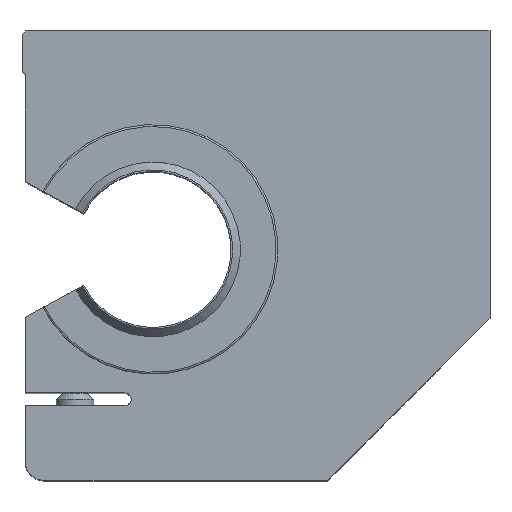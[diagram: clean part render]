
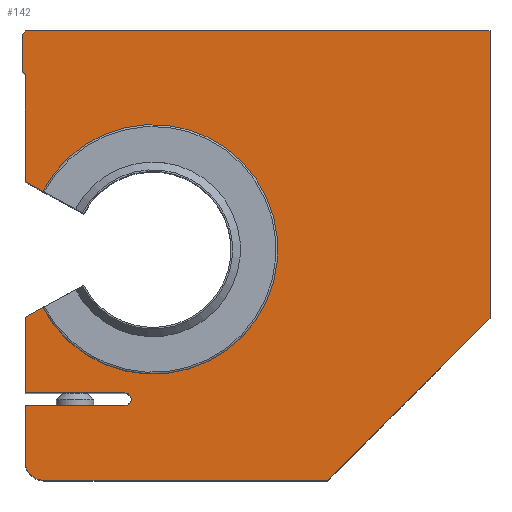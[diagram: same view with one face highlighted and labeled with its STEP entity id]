
A CAD part, top view. The second image highlights one B-rep face of the part: STEP entity #142.
In plain terms, the highlighted planar face has unit normal (0, 0, 1).
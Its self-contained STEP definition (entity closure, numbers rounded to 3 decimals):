
#142=ADVANCED_FACE('',(#316),#317,.F.);
#316=FACE_OUTER_BOUND('',#534,.T.);
#317=PLANE('',#535);
#534=EDGE_LOOP('',(#1160,#1161,#1162,#1163,#1164,#1165,#1166,#1167,#1168,#1169,#1170,#1171,#1172,#1173,#1174,#1175,#1176));
#535=AXIS2_PLACEMENT_3D('',#1177,#1178,#1179);
#1160=ORIENTED_EDGE('',*,*,#1527,.T.);
#1161=ORIENTED_EDGE('',*,*,#1543,.T.);
#1162=ORIENTED_EDGE('',*,*,#1529,.T.);
#1163=ORIENTED_EDGE('',*,*,#1536,.T.);
#1164=ORIENTED_EDGE('',*,*,#1540,.T.);
#1165=ORIENTED_EDGE('',*,*,#1542,.T.);
#1166=ORIENTED_EDGE('',*,*,#1484,.T.);
#1167=ORIENTED_EDGE('',*,*,#1488,.T.);
#1168=ORIENTED_EDGE('',*,*,#1490,.T.);
#1169=ORIENTED_EDGE('',*,*,#1362,.T.);
#1170=ORIENTED_EDGE('',*,*,#1497,.T.);
#1171=ORIENTED_EDGE('',*,*,#1504,.T.);
#1172=ORIENTED_EDGE('',*,*,#1507,.T.);
#1173=ORIENTED_EDGE('',*,*,#1510,.T.);
#1174=ORIENTED_EDGE('',*,*,#1513,.T.);
#1175=ORIENTED_EDGE('',*,*,#1516,.T.);
#1176=ORIENTED_EDGE('',*,*,#1519,.T.);
#1177=CARTESIAN_POINT('',(0.0,0.0,33.5));
#1178=DIRECTION('',(0.0,0.0,-1.0));
#1179=DIRECTION('',(1.0,0.0,0.0));
#1362=EDGE_CURVE('',#1638,#1636,#1639,.T.);
#1484=EDGE_CURVE('',#1843,#1841,#1844,.T.);
#1488=EDGE_CURVE('',#1841,#1848,#1850,.T.);
#1490=EDGE_CURVE('',#1848,#1638,#1852,.T.);
#1497=EDGE_CURVE('',#1636,#1859,#1861,.T.);
#1504=EDGE_CURVE('',#1859,#1868,#1870,.T.);
#1507=EDGE_CURVE('',#1868,#1873,#1875,.T.);
#1510=EDGE_CURVE('',#1873,#1878,#1880,.T.);
#1513=EDGE_CURVE('',#1878,#1883,#1885,.T.);
#1516=EDGE_CURVE('',#1883,#1888,#1890,.T.);
#1519=EDGE_CURVE('',#1888,#1893,#1895,.T.);
#1527=EDGE_CURVE('',#1893,#1908,#1910,.T.);
#1529=EDGE_CURVE('',#1913,#1914,#1915,.T.);
#1536=EDGE_CURVE('',#1914,#1925,#1927,.T.);
#1540=EDGE_CURVE('',#1925,#1932,#1934,.T.);
#1542=EDGE_CURVE('',#1932,#1843,#1936,.T.);
#1543=EDGE_CURVE('',#1908,#1913,#1937,.F.);
#1636=VERTEX_POINT('',#2045);
#1638=VERTEX_POINT('',#2048);
#1639=CIRCLE('',#2049,20.0);
#1841=VERTEX_POINT('',#2399);
#1843=VERTEX_POINT('',#2402);
#1844=LINE('',#2403,#2404);
#1848=VERTEX_POINT('',#2410);
#1850=LINE('',#2413,#2414);
#1852=LINE('',#2421,#2422);
#1859=VERTEX_POINT('',#2434);
#1861=LINE('',#2437,#2438);
#1868=VERTEX_POINT('',#2454);
#1870=LINE('',#2457,#2458);
#1873=VERTEX_POINT('',#2462);
#1875=LINE('',#2465,#2466);
#1878=VERTEX_POINT('',#2469);
#1880=CIRCLE('',#2472,1.0);
#1883=VERTEX_POINT('',#2476);
#1885=LINE('',#2479,#2480);
#1888=VERTEX_POINT('',#2484);
#1890=LINE('',#2487,#2488);
#1893=VERTEX_POINT('',#2491);
#1895=CIRCLE('',#2494,3.0);
#1908=VERTEX_POINT('',#2510);
#1910=LINE('',#2513,#2514);
#1913=VERTEX_POINT('',#2517);
#1914=VERTEX_POINT('',#2518);
#1915=LINE('',#2519,#2520);
#1925=VERTEX_POINT('',#2534);
#1927=LINE('',#2537,#2538);
#1932=VERTEX_POINT('',#2544);
#1934=LINE('',#2547,#2548);
#1936=LINE('',#2551,#2552);
#1937=LINE('',#2553,#2554);
#2045=CARTESIAN_POINT('',(-17.691,-9.329,33.5));
#2048=CARTESIAN_POINT('',(-17.691,9.329,33.5));
#2049=AXIS2_PLACEMENT_3D('',#2634,#2635,#2636);
#2399=CARTESIAN_POINT('',(-20.5,28.0,33.5));
#2402=CARTESIAN_POINT('',(-21.0,28.5,33.5));
#2403=CARTESIAN_POINT('',(-21.0,28.5,33.5));
#2404=VECTOR('',#2814,1.0);
#2410=CARTESIAN_POINT('',(-20.5,10.854,33.5));
#2413=CARTESIAN_POINT('',(-20.5,28.0,33.5));
#2414=VECTOR('',#2818,1.0);
#2421=CARTESIAN_POINT('',(-20.5,10.854,33.5));
#2422=VECTOR('',#2819,1.0);
#2434=CARTESIAN_POINT('',(-20.5,-10.854,33.5));
#2437=CARTESIAN_POINT('',(-17.691,-9.329,33.5));
#2438=VECTOR('',#2826,1.0);
#2454=CARTESIAN_POINT('',(-20.5,-23.,33.5));
#2457=CARTESIAN_POINT('',(-20.5,-10.854,33.5));
#2458=VECTOR('',#2832,1.0);
#2462=CARTESIAN_POINT('',(-4.5,-23.,33.5));
#2465=CARTESIAN_POINT('',(-20.5,-23.,33.5));
#2466=VECTOR('',#2835,1.0);
#2469=CARTESIAN_POINT('',(-4.5,-25.,33.5));
#2472=AXIS2_PLACEMENT_3D('',#2840,#2841,#2842);
#2476=CARTESIAN_POINT('',(-20.5,-25.,33.5));
#2479=CARTESIAN_POINT('',(-4.5,-25.,33.5));
#2480=VECTOR('',#2845,1.0);
#2484=CARTESIAN_POINT('',(-20.5,-34.0,33.5));
#2487=CARTESIAN_POINT('',(-20.5,-25.,33.5));
#2488=VECTOR('',#2848,1.0);
#2491=CARTESIAN_POINT('',(-17.5,-37.0,33.5));
#2494=AXIS2_PLACEMENT_3D('',#2853,#2854,#2855);
#2510=CARTESIAN_POINT('',(28.0,-37.,33.5));
#2513=CARTESIAN_POINT('',(-17.5,-37.0,33.5));
#2514=VECTOR('',#2869,1.0);
#2517=CARTESIAN_POINT('',(54.0,-11.,33.5));
#2518=CARTESIAN_POINT('',(54.0,35.0,33.5));
#2519=CARTESIAN_POINT('',(54.0,-37.,33.5));
#2520=VECTOR('',#2873,1.0);
#2534=CARTESIAN_POINT('',(-20.5,35.0,33.5));
#2537=CARTESIAN_POINT('',(54.0,35.0,33.5));
#2538=VECTOR('',#2882,1.0);
#2544=CARTESIAN_POINT('',(-21.0,34.5,33.5));
#2547=CARTESIAN_POINT('',(-20.5,35.0,33.5));
#2548=VECTOR('',#2888,1.0);
#2551=CARTESIAN_POINT('',(-21.0,34.5,33.5));
#2552=VECTOR('',#2890,1.0);
#2553=CARTESIAN_POINT('',(54.0,-11.,33.5));
#2554=VECTOR('',#2891,1.0);
#2634=CARTESIAN_POINT('',(0.0,0.0,33.5));
#2635=DIRECTION('',(0.0,0.0,-1.0));
#2636=DIRECTION('',(1.0,0.0,0.0));
#2814=DIRECTION('',(0.707,-0.707,0.0));
#2818=DIRECTION('',(0.0,-1.0,0.0));
#2819=DIRECTION('',(0.879,-0.477,0.0));
#2826=DIRECTION('',(-0.879,-0.477,0.0));
#2832=DIRECTION('',(0.0,-1.0,0.0));
#2835=DIRECTION('',(1.0,0.0,0.0));
#2840=CARTESIAN_POINT('',(-4.5,-24.,33.5));
#2841=DIRECTION('',(0.0,0.0,-1.0));
#2842=DIRECTION('',(1.0,0.0,0.0));
#2845=DIRECTION('',(-1.0,0.0,0.0));
#2848=DIRECTION('',(0.0,-1.0,0.0));
#2853=CARTESIAN_POINT('',(-17.5,-34.0,33.5));
#2854=DIRECTION('',(0.0,0.0,1.0));
#2855=DIRECTION('',(1.0,0.0,0.0));
#2869=DIRECTION('',(1.0,0.,0.0));
#2873=DIRECTION('',(0.0,1.0,0.0));
#2882=DIRECTION('',(-1.0,0.0,0.0));
#2888=DIRECTION('',(-0.707,-0.707,0.0));
#2890=DIRECTION('',(0.0,-1.0,0.0));
#2891=DIRECTION('',(-0.707,-0.707,0.0));
